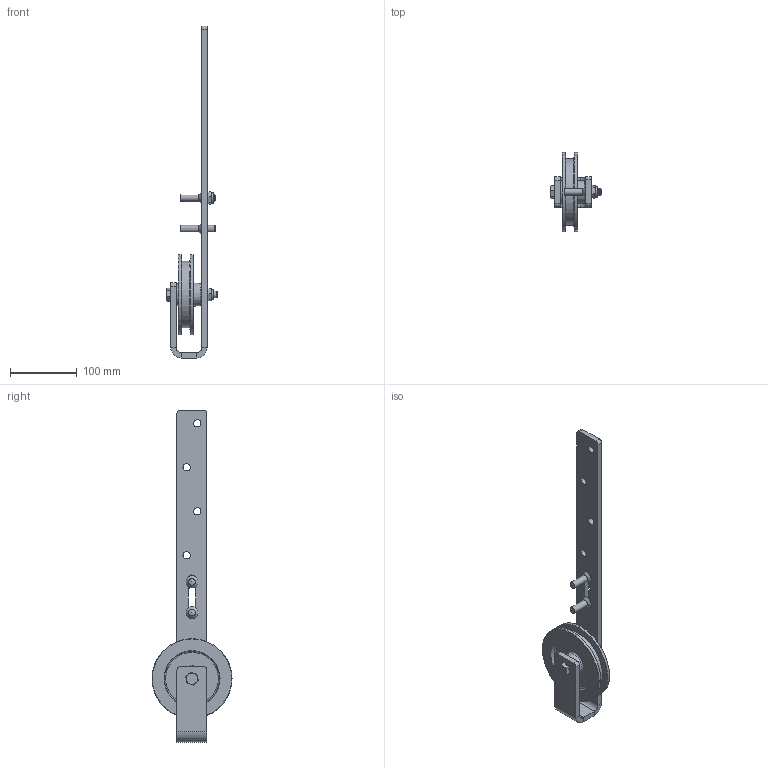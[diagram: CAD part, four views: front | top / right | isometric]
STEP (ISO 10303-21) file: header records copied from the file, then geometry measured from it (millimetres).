
FILE_DESCRIPTION(/* description */ ('Schiebetorrolle mit Buegel Ø120'),/* implementation_level */ '2;1');
FILE_NAME(/* name */ 'C:\Temp\AG_VJobSTP\010330152.iam.stp',/* time_stamp */ '2022-09-02T10:00:17+02:00',/* author */ ('Lesti'),/* organization */ (''),/* preprocessor_version */ 'ST-DEVELOPER v18.1',/* originating_system */ 'Autodesk Inventor 2021',/* authorisation */ '');
FILE_SCHEMA (('AUTOMOTIVE_DESIGN { 1 0 10303 214 3 1 1 }'));
Length unit declared in the file: millimetre
Products named in the file (7): 010330152; 337000108; 010330152_02; 011331037; DIN EN ISO 7040 - M10; DIN 931-1 - M10 x 70; 010330152_03
Assembly tree (16 placements, depth 2):
  010330152
    337000108
    010330152_02
    DIN EN ISO 7040 - M10  x2
    011331037  x2
    DIN 931-1 - M10 x 70
    010330152_03  x9
Bounding box: 76.4 x 120 x 498 mm (x, y, z)
Volume: 381659.7 mm3; surface area: 129267.9 mm2
Topology: 16 solids, 16 shells, 220 faces, 480 edges, 304 vertices
Faces by surface type: plane 118, cylinder 43, cone 27, bspline 26, torus 6
Full cylindrical faces by diameter (mm): 5 x9, 8.376 x2, 10 x5, 10.5 x2, 11 x4, 15.6 x3, 18 x2, 20 x1, 100 x1, 120 x2
Entity records: 5251 total; most frequent: CARTESIAN_POINT 1209, ORIENTED_EDGE 774, DIRECTION 753, EDGE_CURVE 387, AXIS2_PLACEMENT_3D 273, VERTEX_POINT 246, LINE 207, VECTOR 207
